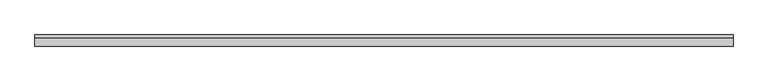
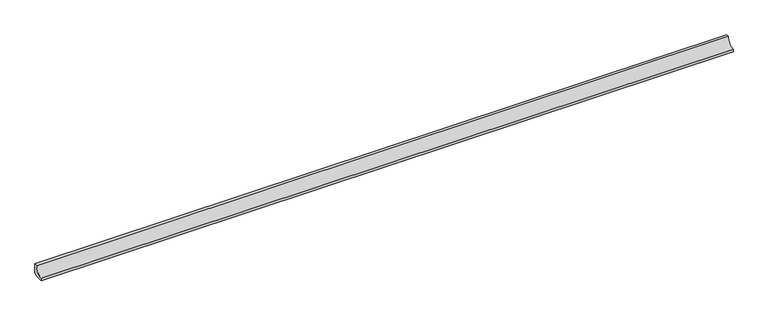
"""IFC4 building model written with IfcOpenShell, lengths in millimetres: proxy geometry, Muestra 2.5m 112 Liso : Muestra 2.5m 112 Liso."""

from ifc_helpers import new_model, si_unit, point, frame, frame_2d, origin, place, context, project, spatial, polyline, circle_curve, trimmed, segment, composite_curve, outline, extrude, source, transform, mapped, element, save


def generic_models_b8b53aee(model_context):
    return source(origin(), model_context, "Body", "SweptSolid", [
        extrude(outline(composite_curve([segment(polyline([(-10621.0058024, -31.2885022), (-10629.7173002, -40.0), (-10661.0058024, -40.0), (-10661.0058024, -30.0265886)]), True, "CONTINUOUS"), segment(trimmed(circle_curve(frame_2d((-10661.0013571, -0.0044453)), 30.0221435), [point((-10661.0058024, -30.0265886))], [point((-10630.9792138, 0.0))], True, "CARTESIAN"), True, "CONTINUOUS"), segment(polyline([(-10630.9792138, 0.0), (-10621.0058024, 0.0), (-10621.0058024, -31.2885022)]), True, "CONTINUOUS")], self_intersect=False)), frame((137974.6596951, 0.0, 0.0), z_axis=(1.0, 0.0, 0.0), x_axis=(0.0, 1.0, 0.0)), (0.0, 0.0, 1.0), 2500.0),
    ])


if __name__ == "__main__":
    model = new_model("IFC4")
    model_context = context("Model", 3, world=origin())
    ifc_project = project(units=[si_unit("LENGTHUNIT", "METRE", prefix="MILLI")], contexts=[model_context])
    site = spatial("IfcSite", under=ifc_project)
    building = spatial("IfcBuilding", under=site)
    placement = place(None, origin())
    generic_models_shape = generic_models_b8b53aee(model_context)
    element("IfcBuildingElementProxy", 1, Name="Muestra 2.5m 112 Liso : Muestra 2.5m 112 Liso", ObjectType="Muestra 2.5m 112 Liso : Muestra 2.5m 112 Liso", at=placement, inside=building, context=model_context, shape_type="MappedRepresentation", body=[
        mapped(generic_models_shape, transform((0.0, 0.0, 0.0), x_axis=(1.0, 0.0, 0.0), y_axis=(0.0, 1.0, 0.0), z_axis=(0.0, 0.0, 1.0))),
    ])
    save(model, "model.ifc")
